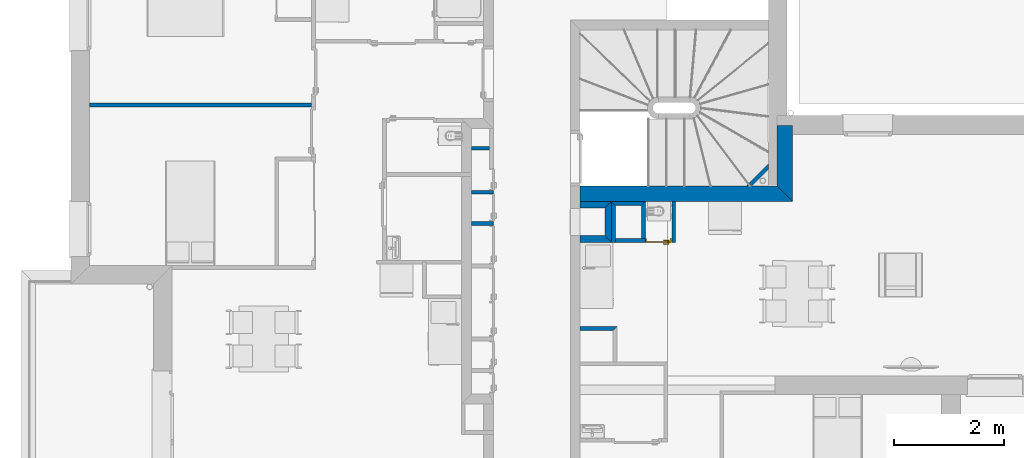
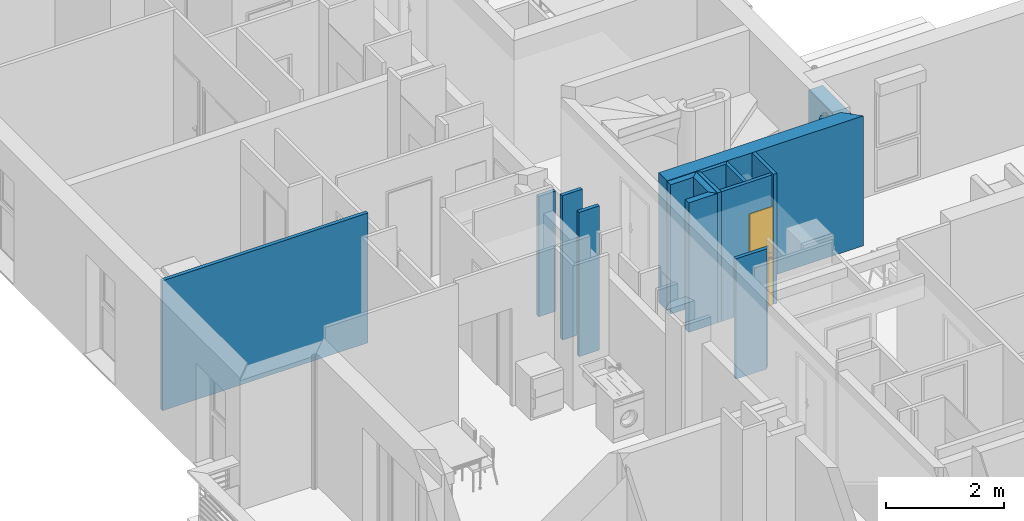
# One storey, part 24 of 164: 16 walls, 1 door, 1 opening.
"""IFC2X3 building model written with IfcOpenShell, lengths in millimetres."""

from ifc_helpers import new_model, entity, si_unit, converted_unit, derived_unit, money_unit, direction, frame, origin_with_axes, origin_2d_with_axis, place, context, subcontext, project, spatial, polyline, rectangle, outline, extrude, faceted_brep, source, transform, mapped, material, layer, layer_set, layer_usage, type_object, element, fill, save


model = new_model("IFC2X3")

# Units and contexts
model_context = context("Model", 3, precision=0.01, world=origin_with_axes(), true_north=direction((0.0, 1.0)))
body_context = subcontext(model_context, "Body", "Model", "MODEL_VIEW")
ifc_project = project(units=[si_unit("LENGTHUNIT", "METRE", prefix="MILLI"), si_unit("AREAUNIT", "SQUARE_METRE"), si_unit("VOLUMEUNIT", "CUBIC_METRE"), converted_unit("PLANEANGLEUNIT", "DEGREE", entity("IfcPlaneAngleMeasure", 0.0174532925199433), si_unit("PLANEANGLEUNIT", "RADIAN"), dimensions=[0, 0, 0, 0, 0, 0, 0]), money_unit("USD"), converted_unit("TIMEUNIT", "Year", entity("IfcTimeMeasure", 31557600.0), si_unit("TIMEUNIT", "SECOND"), dimensions=[0, 0, 1, 0, 0, 0, 0]), si_unit("MASSUNIT", "GRAM", prefix="KILO"), si_unit("THERMODYNAMICTEMPERATUREUNIT", "DEGREE_CELSIUS"), si_unit("LUMINOUSINTENSITYUNIT", "LUMEN"), si_unit("ENERGYUNIT", "JOULE", prefix="MEGA"), derived_unit("THERMALCONDUCTANCEUNIT", [(si_unit("POWERUNIT", "WATT"), 1), (si_unit("LENGTHUNIT", "METRE"), -1), (si_unit("THERMODYNAMICTEMPERATUREUNIT", "KELVIN"), -1)]), derived_unit("SPECIFICHEATCAPACITYUNIT", [(si_unit("ENERGYUNIT", "JOULE"), 1), (si_unit("MASSUNIT", "GRAM", prefix="KILO"), -1), (si_unit("THERMODYNAMICTEMPERATUREUNIT", "KELVIN"), -1)]), derived_unit("MASSDENSITYUNIT", [(si_unit("MASSUNIT", "GRAM", prefix="KILO"), 1), (si_unit("VOLUMEUNIT", "CUBIC_METRE"), -1)])], contexts=[model_context])

# Site, building, storey
site_placement = place(None, origin_with_axes())
site = spatial("IfcSite", under=ifc_project, at=site_placement, Name="Site", CompositionType="ELEMENT")
building_placement = place(site_placement, origin_with_axes())
building = spatial("IfcBuilding", under=site, at=building_placement, Name="Bâtiment", CompositionType="ELEMENT")
storey_placement = place(building_placement, frame((0.0, 0.0, 5750.0), z_axis=(0.0, 0.0, 1.0), x_axis=(1.0, 0.0, 0.0)))
storey = spatial("IfcBuildingStorey", under=building, at=storey_placement, Name="Etage1", CompositionType="ELEMENT", Elevation=5750.0)

# Walls
ifc_material_1 = material(Name="Hachure solide 268963992")
ifc_layer_1 = layer(ifc_material_1, 70.0, ventilated="UNKNOWN")
ifc_layer_set_1 = layer_set([ifc_layer_1], Name="Cloison 70 0826278243")
ifc_layer_usage_1 = layer_usage(ifc_layer_set_1, "AXIS2", "NEGATIVE", 0.0)
wall_type_1 = type_object("IfcWallType", Name="Cloison 70 0826278243 70", PredefinedType="NOTDEFINED")
wall_1_placement = place(storey_placement, frame((2223732.399917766, -637309.3890085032, 0.0), z_axis=(0.0, 0.0, 1.0), x_axis=(1.0, 0.0, 0.0)))
element("IfcWallStandardCase", 1, at=wall_1_placement, inside=storey, type_object=wall_type_1, material=ifc_layer_usage_1, Name="Mur-121", context=body_context, shape_type="SweptSolid", body=[
    extrude(outline(polyline([(180.0002031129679, -69.99999999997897), (580.0980729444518, -69.99999999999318), (580.0980729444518, 0.0), (180.0002031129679, 0.0), (180.0002031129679, -69.99999999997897)])), origin_with_axes(), (0.0, 0.0, 1.0), 3000.0),
])
ifc_layer_usage_2 = layer_usage(ifc_layer_set_1, "AXIS2", "NEGATIVE", 0.0)
wall_2_placement = place(storey_placement, frame((2223732.399917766, -637879.3890085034, 0.0), z_axis=(0.0, 0.0, 1.0), x_axis=(1.0, 0.0, 0.0)))
element("IfcWallStandardCase", 2, at=wall_2_placement, inside=storey, type_object=wall_type_1, material=ifc_layer_usage_2, Name="Mur-121", context=body_context, shape_type="SweptSolid", body=[
    extrude(outline(polyline([(180.0002031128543, -69.99999999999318), (580.0717240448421, -69.99999999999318), (580.0717240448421, 0.0), (180.0002031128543, 0.0), (180.0002031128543, -69.99999999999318)])), origin_with_axes(), (0.0, 0.0, 1.0), 3000.0),
])
ifc_layer_usage_3 = layer_usage(ifc_layer_set_1, "AXIS2", "NEGATIVE", 70.0)
wall_3_placement = place(storey_placement, frame((2221010.878831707, -635722.9496932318, 0.0), z_axis=(0.0, 0.0, 1.0), x_axis=(-0.9999999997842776, 2.077125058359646e-05, 0.0)))
element("IfcWallStandardCase", 3, at=wall_3_placement, inside=storey, type_object=wall_type_1, material=ifc_layer_usage_3, Name="Mur-149", context=body_context, shape_type="SweptSolid", body=[
    extrude(outline(polyline([(-0.002205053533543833, 0.0), (4036.585962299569, 0.0), (4036.584095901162, 69.99999999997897), (-0.003641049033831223, 69.99999999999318), (-0.002205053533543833, 0.0)])), origin_with_axes(), (0.0, 0.0, 1.0), 2700.0),
])
ifc_layer_usage_4 = layer_usage(ifc_layer_set_1, "AXIS2", "NEGATIVE", 70.0)
wall_4_placement = place(storey_placement, frame((2225712.318356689, -639860.3706731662, 0.0), z_axis=(0.0, 0.0, 1.0), x_axis=(0.9999999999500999, -9.990002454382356e-06, 0.0)))
element("IfcWallStandardCase", 4, at=wall_4_placement, inside=storey, type_object=wall_type_1, material=ifc_layer_usage_4, Name="Mur-149", context=body_context, shape_type="SweptSolid", body=[
    extrude(outline(polyline([(180.0000000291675, 0.0), (780.000000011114, 0.0), (849.999300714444, 70.00000000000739), (179.9993007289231, 70.00000000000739), (180.0000000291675, 0.0)])), origin_with_axes(), (0.0, 0.0, 1.0), 2500.0),
])
ifc_layer_usage_5 = layer_usage(ifc_layer_set_1, "AXIS2", "NEGATIVE", 0.0)
wall_5_placement = place(storey_placement, frame((2223732.400091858, -636509.3242415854, 0.0), z_axis=(0.0, 0.0, 1.0), x_axis=(1.0, 0.0, 0.0)))
element("IfcWallStandardCase", 5, at=wall_5_placement, inside=storey, type_object=wall_type_1, material=ifc_layer_usage_5, Name="Mur-121", context=body_context, shape_type="SweptSolid", body=[
    extrude(outline(polyline([(180.0000290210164, -69.99999999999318), (510.0005347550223, -69.99999999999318), (510.0005547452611, 0.0), (180.0000290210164, 0.0), (180.0000290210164, -69.99999999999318)])), origin_with_axes(), (0.0, 0.0, 1.0), 2500.000000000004),
])
ifc_layer_usage_6 = layer_usage(ifc_layer_set_1, "AXIS2", "POSITIVE", 0.0)
wall_6_placement = place(storey_placement, frame((2229006.076128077, -637233.3438949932, 0.0), z_axis=(0.0, 0.0, 1.0), x_axis=(0.7071067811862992, 0.7071067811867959, 0.0)))
element("IfcWallStandardCase", 6, at=wall_6_placement, inside=storey, type_object=wall_type_1, material=ifc_layer_usage_6, Name="Mur-120", context=body_context, shape_type="SweptSolid", body=[
    extrude(outline(polyline([(3.215063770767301e-07, -1.13686837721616e-10), (434.7291193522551, 0.0), (504.7291193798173, 69.99999999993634), (-69.99999967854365, 70.00000000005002), (3.215063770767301e-07, -1.13686837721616e-10)])), origin_with_axes(), (0.0, 0.0, 1.0), 2460.000000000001),
])
ifc_material_2 = material(Name="Hachure solide 269229667")
ifc_layer_2 = layer(ifc_material_2, 70.0, ventilated="UNKNOWN")
ifc_layer_set_2 = layer_set([ifc_layer_2], Name="Cloison 70 0836576958")
ifc_layer_usage_7 = layer_usage(ifc_layer_set_2, "AXIS2", "NEGATIVE", 0.0)
wall_type_2 = type_object("IfcWallType", Name="Cloison 70 0836576958 70", PredefinedType="NOTDEFINED")
wall_7_placement = place(storey_placement, frame((2227629.231243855, -637515.8216903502, 0.0), z_axis=(0.0, 0.0, 1.0), x_axis=(0.0, -1.0, 0.0)))
element("IfcWallStandardCase", 7, at=wall_7_placement, inside=storey, type_object=wall_type_2, material=ifc_layer_usage_7, Name="Mur-148", context=body_context, shape_type="SweptSolid", body=[
    extrude(outline(polyline([(0.0, -70.00000000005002), (740.0000000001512, -70.00000000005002), (740.0000000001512, 0.0), (0.0, 0.0), (0.0, -70.00000000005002)])), origin_with_axes(), (0.0, 0.0, 1.0), 2700.0),
])
ifc_layer_usage_8 = layer_usage(ifc_layer_set_2, "AXIS2", "NEGATIVE", 0.0)
wall_8_placement = place(storey_placement, frame((2227077.294525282, -637515.8216903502, 0.0), z_axis=(0.0, 0.0, 1.0), x_axis=(0.0, -1.0, 0.0)))
element("IfcWallStandardCase", 8, at=wall_8_placement, inside=storey, type_object=wall_type_2, material=ifc_layer_usage_8, Name="Mur-148", context=body_context, shape_type="SweptSolid", body=[
    extrude(outline(polyline([(70.0000000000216, -70.00000000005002), (670.0000000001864, -70.00000000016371), (670.000000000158, -1.13686837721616e-10), (0.0, 0.0), (70.0000000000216, -70.00000000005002)])), origin_with_axes(), (0.0, 0.0, 1.0), 2700.0),
])
ifc_layer_usage_9 = layer_usage(ifc_layer_set_2, "AXIS2", "POSITIVE", 0.0)
wall_9_placement = place(storey_placement, frame((2226461.81823076, -637515.8216903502, 0.0), z_axis=(0.0, 0.0, 1.0), x_axis=(0.0, -1.0, 0.0)))
element("IfcWallStandardCase", 9, at=wall_9_placement, inside=storey, type_object=wall_type_2, material=ifc_layer_usage_9, Name="Mur-148", context=body_context, shape_type="SweptSolid", body=[
    extrude(outline(polyline([(0.0, 0.0), (740.0000000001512, 0.0), (740.0000000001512, 70.00000000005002), (69.99999999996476, 70.00000000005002), (0.0, 0.0)])), origin_with_axes(), (0.0, 0.0, 1.0), 2700.0),
])

# Wall, opening, door
ifc_layer_usage_10 = layer_usage(ifc_layer_set_2, "AXIS2", "POSITIVE", 0.0)
wall_10_placement = place(storey_placement, frame((2226461.818230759, -638255.8216903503, 0.0), z_axis=(0.0, 0.0, 1.0), x_axis=(1.0, 0.0, 0.0)))
wall_10 = element("IfcWallStandardCase", 10, at=wall_10_placement, inside=storey, type_object=wall_type_2, material=ifc_layer_usage_10, Name="Mur-148", context=body_context, shape_type="SweptSolid", body=[
    extrude(outline(polyline([(-1.13686837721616e-10, 0.0), (1069.517292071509, 0.0), (1069.517292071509, 69.99999999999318), (0.04282755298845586, 69.99999999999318), (-1.13686837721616e-10, 0.0)])), origin_with_axes(), (0.0, 0.0, 1.0), 2700.0),
])
opening_placement = place(wall_10_placement, frame((852.9431074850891, 0.0, 0.0), z_axis=(0.0, 0.0, 1.0), x_axis=(1.0, 0.0, 0.0)))
opening = element("IfcOpeningElement", 11, at=opening_placement, cuts=wall_10, Name="Por-275", context=body_context, shape_type="SweptSolid", body=[
    extrude(rectangle(XDim=470.0, YDim=2050.0, at=origin_2d_with_axis()), frame((0.0, 69.99999999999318, 1025.0), z_axis=(0.0, -1.0, 0.0), x_axis=(-1.0, 0.0, 0.0)), (0.0, 0.0, 1.0), 140.0),
])
door_style = type_object("IfcDoorStyle", Name="Porte_1v", ConstructionType="NOTDEFINED", OperationType="NOTDEFINED", ParameterTakesPrecedence=False, Sizeable=False)
shared_shape = source(origin_with_axes(), body_context, "Body", "Brep", [
    faceted_brep([(235.0, 0.0, 0.0), (225.0, 0.0, 0.0), (225.0, 0.0, 2040.0), (-225.0, 0.0, 2040.0), (-225.0, 0.0, 0.0), (-235.0, 0.0, 0.0), (-235.0, 0.0, 2050.0), (235.0, 0.0, 2050.0), (235.0, -70.0, 0.0), (215.0, -70.0, 0.0), (215.0, -15.0, 0.0), (225.0, -15.0, 0.0), (225.0, -15.0, 2040.0), (-225.0, -15.0, 2040.0), (-225.0, -15.0, 0.0), (-215.0, -15.0, 0.0), (-215.0, -70.0, 0.0), (-235.0, -70.0, 0.0), (-235.0, -70.0, 2050.0), (235.0, -70.0, 2050.0), (-215.0, -70.0, 2030.0), (215.0, -70.0, 2030.0), (215.0, -15.0, 2030.0), (-215.0, -15.0, 2030.0)], [[[0, 1, 2, 3, 4, 5, 6, 7]], [[0, 8, 9, 10, 11, 1]], [[1, 11, 12, 2]], [[2, 12, 13, 3]], [[3, 13, 14, 4]], [[5, 4, 14, 15, 16, 17]], [[18, 6, 5, 17]], [[19, 7, 6, 18]], [[8, 0, 7, 19]], [[9, 8, 19, 18, 17, 16, 20, 21]], [[10, 9, 21, 22]], [[11, 10, 22, 23, 15, 14, 13, 12]], [[23, 20, 16, 15]], [[22, 21, 20, 23]]]),
    faceted_brep([(-160.0, -15.0, 900.0), (-200.0, -15.0, 900.0), (-200.0, -15.0, 1100.0), (-160.0, -15.0, 1100.0), (-160.0, -25.0, 900.0), (-200.0, -25.0, 900.0), (-200.0, -25.0, 1100.0), (-160.0, -25.0, 1100.0)], [[[0, 1, 2, 3]], [[1, 0, 4, 5]], [[2, 1, 5, 6]], [[3, 2, 6, 7]], [[0, 3, 7, 4]], [[5, 4, 7, 6]]]),
    faceted_brep([(-90.0, -25.0, 1000.0), (-190.0, -25.0, 1000.0), (-190.0, -25.0, 1020.0), (-90.0, -25.0, 1020.0), (-90.0, -45.0, 1000.0), (-190.0, -45.0, 1000.0), (-190.0, -45.0, 1020.0), (-90.0, -45.0, 1020.0)], [[[0, 1, 2, 3]], [[1, 0, 4, 5]], [[2, 1, 5, 6]], [[3, 2, 6, 7]], [[0, 3, 7, 4]], [[5, 4, 7, 6]]]),
    faceted_brep([(-160.0, 15.0, 900.0), (-200.0, 15.0, 900.0), (-200.0, 15.0, 1100.0), (-160.0, 15.0, 1100.0), (-160.0, 5.000000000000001, 900.0), (-200.0, 5.000000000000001, 900.0), (-200.0, 5.000000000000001, 1100.0), (-160.0, 5.000000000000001, 1100.0)], [[[0, 1, 2, 3]], [[1, 0, 4, 5]], [[2, 1, 5, 6]], [[3, 2, 6, 7]], [[0, 3, 7, 4]], [[5, 4, 7, 6]]]),
    faceted_brep([(-90.0, 35.0, 1000.0), (-190.0, 35.0, 1000.0), (-190.0, 35.0, 1020.0), (-90.0, 35.0, 1020.0), (-90.0, 15.0, 1000.0), (-190.0, 15.0, 1000.0), (-190.0, 15.0, 1020.0), (-90.0, 15.0, 1020.0)], [[[0, 1, 2, 3]], [[1, 0, 4, 5]], [[2, 1, 5, 6]], [[3, 2, 6, 7]], [[0, 3, 7, 4]], [[5, 4, 7, 6]]]),
    faceted_brep([(-225.0, 5.000000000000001, 0.0), (225.0, 5.000000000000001, 0.0), (225.0, -15.0, 0.0), (-225.0, -15.0, 0.0), (-225.0, 5.000000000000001, 2040.0), (225.0, 5.000000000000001, 2040.0), (225.0, -15.0, 2040.0), (-225.0, -15.0, 2040.0)], [[[0, 1, 2, 3]], [[0, 4, 5, 1]], [[1, 5, 6, 2]], [[3, 2, 6, 7]], [[4, 0, 3, 7]], [[5, 4, 7, 6]]]),
])
door_placement = place(opening_placement, frame((225.0000000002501, 0.0, 0.0), z_axis=(0.0, 0.0, 1.0), x_axis=(-1.0, 0.0, 0.0)))
door = element("IfcDoor", 12, at=door_placement, inside=storey, type_object=door_style, Name="Por-275", OverallHeight=2040.0, OverallWidth=450.0, context=body_context, shape_type="MappedRepresentation", body=[
    mapped(shared_shape, transform((225.0000000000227, 0.0, 0.0))),
])
fill(opening, door)

# Walls
ifc_layer_usage_11 = layer_usage(ifc_layer_set_2, "AXIS2", "NEGATIVE", 0.0)
wall_11_placement = place(storey_placement, frame((2226461.81823076, -637515.8216903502, 0.0), z_axis=(0.0, 0.0, 1.0), x_axis=(1.0, 0.0, 0.0)))
element("IfcWallStandardCase", 13, at=wall_11_placement, inside=storey, type_object=wall_type_2, material=ifc_layer_usage_11, Name="Mur-148", context=body_context, shape_type="SweptSolid", body=[
    extrude(outline(polyline([(70.00000000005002, -69.99999999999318), (545.4762945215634, -69.99999999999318), (615.4762945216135, 0.0), (0.0, 0.0), (70.00000000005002, -69.99999999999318)])), origin_with_axes(), (0.0, 0.0, 1.0), 2700.0),
])
ifc_material_3 = material(Name="Parpaing 312445824")
ifc_layer_3 = layer(ifc_material_3, 180.0, ventilated="UNKNOWN")
ifc_material_4 = material(Name="Isolant styromousse 301821074")
ifc_layer_4 = layer(ifc_material_4, 100.0, ventilated="UNKNOWN")
ifc_layer_set_3 = layer_set([ifc_layer_3, ifc_layer_4], Name="isol int 18+10 0018356637")
ifc_layer_usage_12 = layer_usage(ifc_layer_set_3, "AXIS2", "POSITIVE", 0.0)
wall_type_3 = type_object("IfcWallType", Name="isol int 18+10 0018356637 280", PredefinedType="NOTDEFINED")
wall_12_placement = place(storey_placement, frame((2229473.476036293, -637233.3438947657, 0.0), z_axis=(0.0, 0.0, 1.0), x_axis=(-1.0, 0.0, 0.0)))
element("IfcWallStandardCase", 14, at=wall_12_placement, inside=storey, type_object=wall_type_3, material=ifc_layer_usage_12, Name="Mur-142", context=body_context, shape_type="SweptSolid", body=[
    extrude(outline(polyline([(0.0, 0.0), (3581.157679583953, 0.0), (3581.157679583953, 280.0000000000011), (-280.0000000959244, 280.0000000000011), (0.0, 0.0)])), origin_with_axes(), (0.0, 0.0, 1.0), 2700.0),
])
ifc_layer_usage_13 = layer_usage(ifc_layer_set_3, "AXIS2", "POSITIVE", 0.0)
wall_13_placement = place(storey_placement, frame((2229473.476035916, -636133.3438947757, 0.0), z_axis=(0.0, 0.0, 1.0), x_axis=(3.426107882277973e-10, -1.0, 0.0)))
element("IfcWallStandardCase", 15, at=wall_13_placement, inside=storey, type_object=wall_type_3, material=ifc_layer_usage_13, Name="Mur-142", context=body_context, shape_type="SweptSolid", body=[
    extrude(outline(polyline([(0.0, 0.0), (1099.999999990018, 0.0), (1380.000000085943, 279.9999999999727), (0.0, 279.9999999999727), (0.0, 0.0)])), origin_with_axes(), (0.0, 0.0, 1.0), 2500.000000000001),
])
ifc_material_5 = material(Name="AS_EMPTY 272048125")
ifc_layer_5 = layer(ifc_material_5, 20.0, ventilated="UNKNOWN")
ifc_material_6 = material(Name="Isolant styromousse 275581351")
ifc_layer_6 = layer(ifc_material_6, 80.0, ventilated="UNKNOWN")
ifc_layer_7 = layer(ifc_material_5, 20.0, ventilated="UNKNOWN")
ifc_layer_set_4 = layer_set([ifc_layer_5, ifc_layer_6, ifc_layer_7], Name="SAA 120")
ifc_layer_usage_14 = layer_usage(ifc_layer_set_4, "AXIS2", "POSITIVE", 0.0)
wall_type_4 = type_object("IfcWallType", Name="SAA 120 120", PredefinedType="NOTDEFINED")
wall_14_placement = place(storey_placement, frame((2226462.272495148, -637513.3438947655, 0.0), z_axis=(0.0, 0.0, 1.0), x_axis=(-1.0, 0.0, 0.0)))
element("IfcWallStandardCase", 16, at=wall_14_placement, inside=storey, type_object=wall_type_4, material=ifc_layer_usage_14, Name="Mur-156", context=body_context, shape_type="SweptSolid", body=[
    extrude(outline(polyline([(-1.13686837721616e-10, 0.0), (569.9541384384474, 0.0), (569.9541384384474, 120.0000000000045), (120.0734411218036, 120.0000000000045), (-1.13686837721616e-10, 0.0)])), origin_with_axes(), (0.0, 0.0, 1.0), 2690.0),
])
ifc_layer_usage_15 = layer_usage(ifc_layer_set_4, "AXIS2", "NEGATIVE", 0.0)
wall_15_placement = place(storey_placement, frame((2226461.818230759, -638255.8216903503, 0.0), z_axis=(0.0, 0.0, 1.0), x_axis=(-1.0, 0.0, 0.0)))
element("IfcWallStandardCase", 17, at=wall_15_placement, inside=storey, type_object=wall_type_4, material=ifc_layer_usage_15, Name="Mur-156", context=body_context, shape_type="SweptSolid", body=[
    extrude(outline(polyline([(119.9266037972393, -120.0000000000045), (569.4998740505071, -120.0000000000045), (569.4998740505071, 0.0), (1.13686837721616e-10, 0.0), (119.9266037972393, -120.0000000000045)])), origin_with_axes(), (0.0, 0.0, 1.0), 2690.0),
])
ifc_layer_usage_16 = layer_usage(ifc_layer_set_4, "AXIS2", "NEGATIVE", 0.0)
wall_16_placement = place(storey_placement, frame((2226462.272495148, -637513.3438947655, 0.0), z_axis=(0.0, 0.0, 1.0), x_axis=(-0.0006118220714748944, -0.9999998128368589, 0.0)))
element("IfcWallStandardCase", 18, at=wall_16_placement, inside=storey, type_object=wall_type_4, material=ifc_layer_usage_16, Name="Mur-156", context=body_context, shape_type="SweptSolid", body=[
    extrude(outline(polyline([(120.0734411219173, -119.9999999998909), (622.5513307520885, -120.0000000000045), (742.477934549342, 0.0), (0.0, 0.0), (120.0734411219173, -119.9999999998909)])), origin_with_axes(), (0.0, 0.0, 1.0), 2690.0),
])

save(model, "model.ifc")
